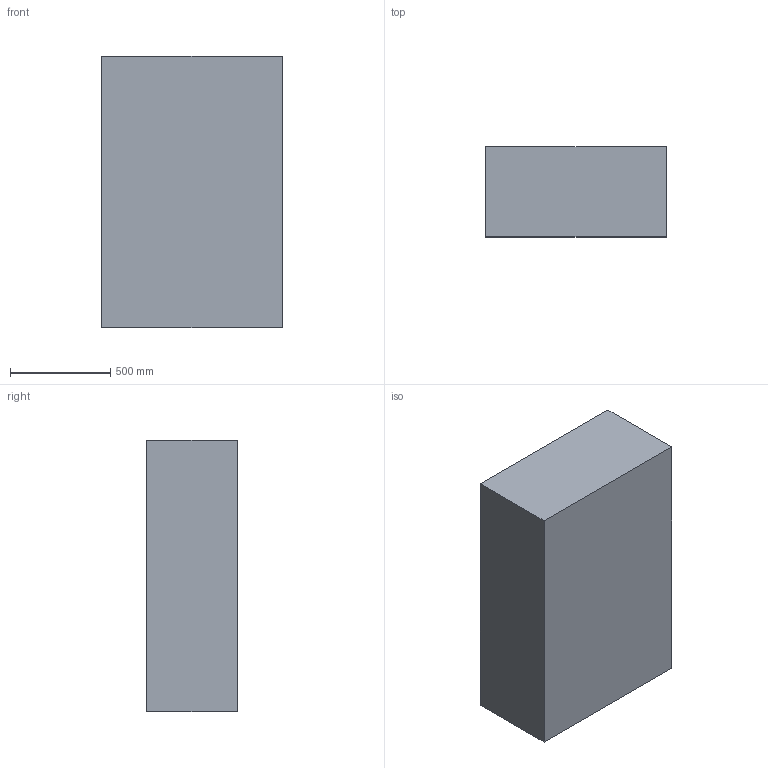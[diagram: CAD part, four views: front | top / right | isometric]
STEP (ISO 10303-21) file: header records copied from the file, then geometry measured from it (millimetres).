
FILE_DESCRIPTION (( 'STEP AP203' ), '1' );
FILE_NAME ('Extrabox Type E.STEP', '2019-01-15T13:51:34', ( '' ), ( '' ), 'SwSTEP 2.0', 'SolidWorks 2019', '' );
FILE_SCHEMA (( 'CONFIG_CONTROL_DESIGN' ));
Length unit declared in the file: millimetre
Products named in the file (1): Extrabox Type E
Bounding box: 900 x 450 x 1350 mm (x, y, z)
Volume: 546750000 mm3; surface area: 4455000 mm2
Topology: 1 solids, 1 shells, 6 faces, 12 edges, 8 vertices
Faces by surface type: plane 6
Entity records: 233 total; most frequent: CARTESIAN_POINT 27, DIRECTION 26, ORIENTED_EDGE 24, EDGE_CURVE 12, LINE 12, VECTOR 12, VERTEX_POINT 8, PERSON_AND_ORGANIZATION 8
